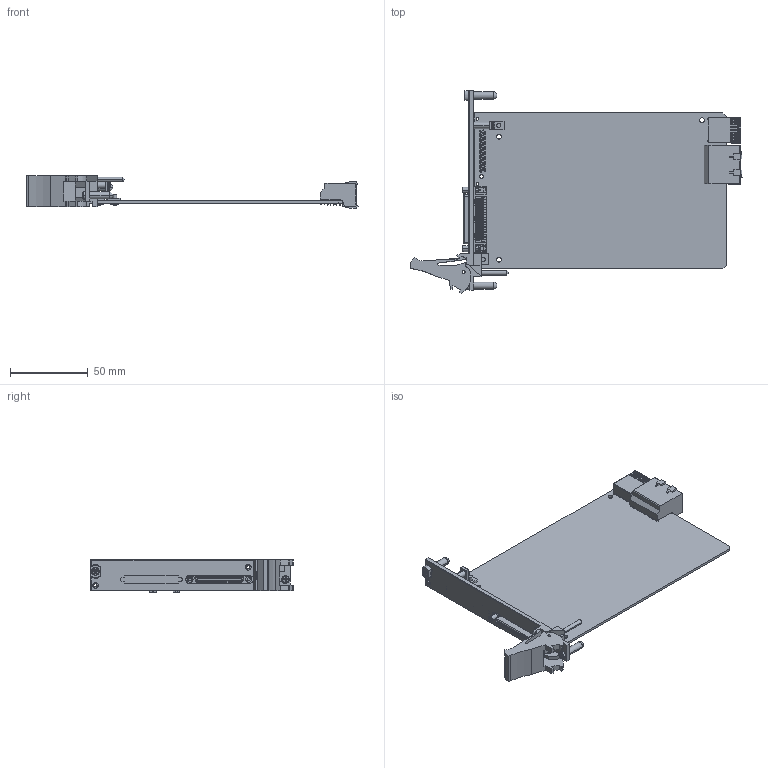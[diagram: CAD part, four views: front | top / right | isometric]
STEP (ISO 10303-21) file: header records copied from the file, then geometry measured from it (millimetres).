
FILE_DESCRIPTION((''),'2;1');
FILE_NAME('CU_PXIE-6738','2015-07-01T',('dkendric'),(''),'PRO/ENGINEER BY PARAMETRIC TECHNOLOGY CORPORATION, 2014000','PRO/ENGINEER BY PARAMETRIC TECHNOLOGY CORPORATION, 2014000','');
FILE_SCHEMA(('CONFIG_CONTROL_DESIGN'));
Products named in the file (1): CU_PXIE-6738
Bounding box: 213.82 x 130.5 x 20.78 mm (x, y, z)
Volume: 51452.2 mm3; surface area: 53130.4 mm2
Topology: 1 solids, 4 shells, 4875 faces, 12923 edges, 8488 vertices
Faces by surface type: plane 3945, cylinder 864, bspline 24, cone 18, sphere 18, torus 6
Entity records: 153154 total; most frequent: CARTESIAN_POINT 31163, ORIENTED_EDGE 25782, DIRECTION 23535, EDGE_CURVE 12891, VECTOR 10031, LINE 10031, VERTEX_POINT 8507, AXIS2_PLACEMENT_3D 6752
